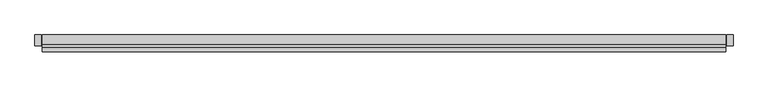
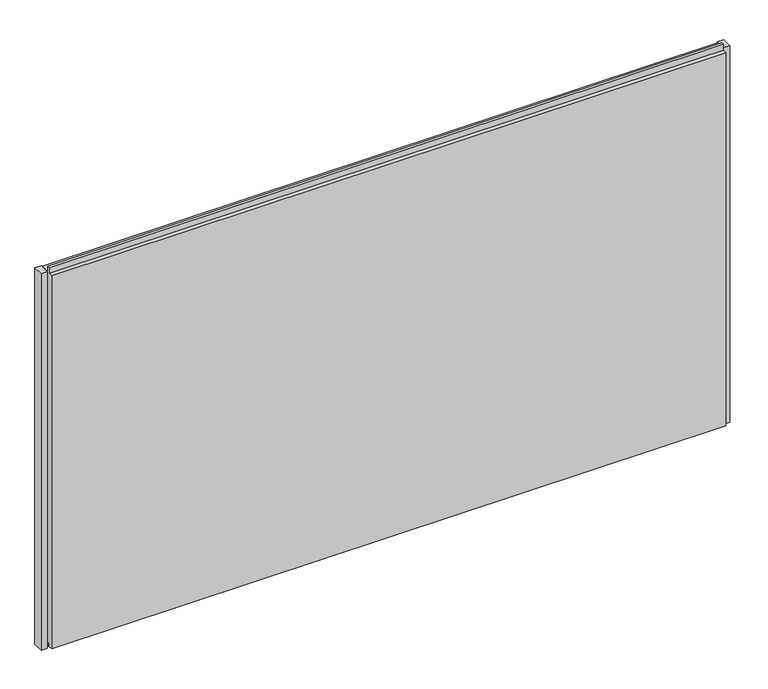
"""IFC4 building model written with IfcOpenShell, lengths in millimetres: plate geometry, Trimo_Qbiss Screen_Normal Panel-HORIZONTAL : HR - FB-F."""

from ifc_helpers import new_model, si_unit, frame, origin, place, context, project, spatial, polyline, outline, extrude, source, transform, mapped, element, save


def plate_931cbc99(model_context):
    return source(origin(), model_context, "Body", "SweptSolid", [
        extrude(outline(polyline([(-963.0, 67.8978162), (-982.0, 67.8978162), (-982.0, 100.0), (-963.0, 100.0), (-963.0, 67.8978162)])), frame((0.0, 0.0, -1.0), z_axis=(0.0, 0.0, 1.0), x_axis=(1.0, 0.0, 0.0)), (0.0, 0.0, 1.0), 1200.0),
        extrude(outline(polyline([(1094.5, 67.8978162), (1075.5, 67.8978162), (1075.5, 100.0), (1094.5, 100.0), (1094.5, 67.8978162)])), frame((0.0, 0.0, -1.0), z_axis=(0.0, 0.0, 1.0), x_axis=(1.0, 0.0, 0.0)), (0.0, 0.0, 1.0), 1200.0),
        extrude(outline(polyline([(71.0, 1196.0), (100.0, 1196.0), (100.0, 0.0), (72.0, 0.0), (72.0, 15.5), (62.0, 15.5), (62.0, 7.0), (50.0, 7.0), (50.0, 1196.0), (63.0, 1196.0), (63.0, 1214.5), (71.0, 1214.5), (71.0, 1196.0)])), frame((-960.0, 0.0, 0.0), z_axis=(1.0, 0.0, 0.0), x_axis=(0.0, 1.0, 0.0)), (0.0, 0.0, 1.0), 2032.5),
    ])


if __name__ == "__main__":
    model = new_model("IFC4")
    model_context = context("Model", 3, world=origin())
    ifc_project = project(units=[si_unit("LENGTHUNIT", "METRE", prefix="MILLI")], contexts=[model_context])
    site = spatial("IfcSite", under=ifc_project)
    building = spatial("IfcBuilding", under=site)
    placement = place(None, origin())
    plate_shape = plate_931cbc99(model_context)
    element("IfcPlate", 1, ObjectType="Trimo_Qbiss Screen_Normal Panel-HORIZONTAL : HR - FB-F", at=placement, inside=building, context=model_context, shape_type="MappedRepresentation", body=[
        mapped(plate_shape, transform((0.0, 0.0, 0.0), x_axis=(1.0, 0.0, 0.0), y_axis=(0.0, 1.0, 0.0), z_axis=(0.0, 0.0, 1.0))),
    ])
    save(model, "model.ifc")
